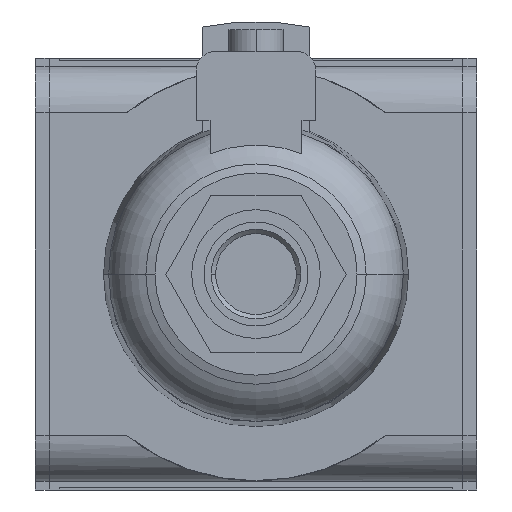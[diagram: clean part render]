
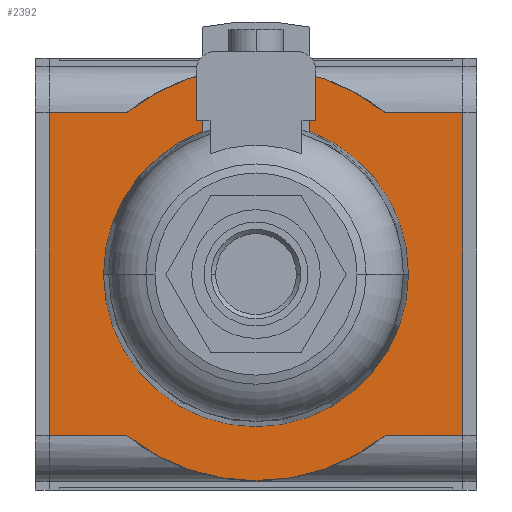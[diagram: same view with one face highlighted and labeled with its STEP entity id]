
A CAD part, front view. The second image highlights one B-rep face of the part: STEP entity #2392.
In plain terms, the highlighted planar face has unit normal (0, -1, 0).
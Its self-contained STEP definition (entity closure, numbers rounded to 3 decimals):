
#763=CARTESIAN_POINT('',(14.068,0.,17.56));
#810=CARTESIAN_POINT('',(-14.068,0.,17.56));
#821=DIRECTION('',(0.,0.,1.));
#822=VECTOR('',#821,35.12);
#823=CARTESIAN_POINT('',(22.5,0.,-17.56));
#824=LINE('',#823,#822);
#825=DIRECTION('',(-1.,0.,0.));
#826=VECTOR('',#825,8.432);
#827=CARTESIAN_POINT('',(22.5,0.,-17.56));
#828=LINE('',#827,#826);
#829=CARTESIAN_POINT('',(0.,0.,0.));
#830=DIRECTION('',(0.,-1.,0.));
#831=DIRECTION('',(-0.625,0.,-0.78));
#832=AXIS2_PLACEMENT_3D('',#829,#830,#831);
#834=DIRECTION('',(-1.,0.,0.));
#835=VECTOR('',#834,8.432);
#836=CARTESIAN_POINT('',(-14.068,0.,-17.56));
#837=LINE('',#836,#835);
#838=DIRECTION('',(0.,0.,1.));
#839=VECTOR('',#838,35.12);
#840=CARTESIAN_POINT('',(-22.5,0.,-17.56));
#841=LINE('',#840,#839);
#842=DIRECTION('',(-1.,0.,0.));
#843=VECTOR('',#842,8.432);
#844=CARTESIAN_POINT('',(-14.068,0.,17.56));
#845=LINE('',#844,#843);
#846=CARTESIAN_POINT('',(0.,0.,0.));
#847=DIRECTION('',(0.,-1.,0.));
#848=DIRECTION('',(0.625,0.,0.78));
#849=AXIS2_PLACEMENT_3D('',#846,#847,#848);
#851=DIRECTION('',(-1.,0.,0.));
#852=VECTOR('',#851,8.432);
#853=CARTESIAN_POINT('',(22.5,0.,17.56));
#854=LINE('',#853,#852);
#865=CARTESIAN_POINT('',(-14.068,0.,-17.56));
#912=CARTESIAN_POINT('',(14.068,0.,-17.56));
#1106=VERTEX_POINT('',#865);
#1107=VERTEX_POINT('',#912);
#1108=VERTEX_POINT('',#763);
#1109=VERTEX_POINT('',#810);
#1114=CARTESIAN_POINT('',(-22.5,0.,-17.56));
#1115=CARTESIAN_POINT('',(-22.5,0.,17.56));
#1116=VERTEX_POINT('',#1114);
#1117=VERTEX_POINT('',#1115);
#1178=CARTESIAN_POINT('',(22.5,0.,-17.56));
#1179=CARTESIAN_POINT('',(22.5,0.,17.56));
#1180=VERTEX_POINT('',#1178);
#1181=VERTEX_POINT('',#1179);
#2373=CARTESIAN_POINT('',(-24.,0.,-23.5));
#2374=DIRECTION('',(0.,-1.,0.));
#2375=DIRECTION('',(1.,0.,0.));
#2376=AXIS2_PLACEMENT_3D('',#2373,#2374,#2375);
#2377=PLANE('',#2376);
#2378=ORIENTED_EDGE('',*,*,#1515,.F.);
#2380=ORIENTED_EDGE('',*,*,#2379,.T.);
#2382=ORIENTED_EDGE('',*,*,#2381,.F.);
#2384=ORIENTED_EDGE('',*,*,#2383,.T.);
#2385=ORIENTED_EDGE('',*,*,#1815,.T.);
#2386=ORIENTED_EDGE('',*,*,#2366,.F.);
#2388=ORIENTED_EDGE('',*,*,#2387,.F.);
#2389=ORIENTED_EDGE('',*,*,#2362,.F.);
#2390=EDGE_LOOP('',(#2378,#2380,#2382,#2384,#2385,#2386,#2388,#2389));
#2391=FACE_OUTER_BOUND('',#2390,.F.);
#2392=ADVANCED_FACE('',(#2391),#2377,.T.);
#833=CIRCLE('',#832,22.5);
#850=CIRCLE('',#849,22.5);
#1515=EDGE_CURVE('',#1180,#1181,#824,.T.);
#1815=EDGE_CURVE('',#1116,#1117,#841,.T.);
#2362=EDGE_CURVE('',#1181,#1108,#854,.T.);
#2366=EDGE_CURVE('',#1109,#1117,#845,.T.);
#2379=EDGE_CURVE('',#1180,#1107,#828,.T.);
#2381=EDGE_CURVE('',#1106,#1107,#833,.T.);
#2383=EDGE_CURVE('',#1106,#1116,#837,.T.);
#2387=EDGE_CURVE('',#1108,#1109,#850,.T.);
